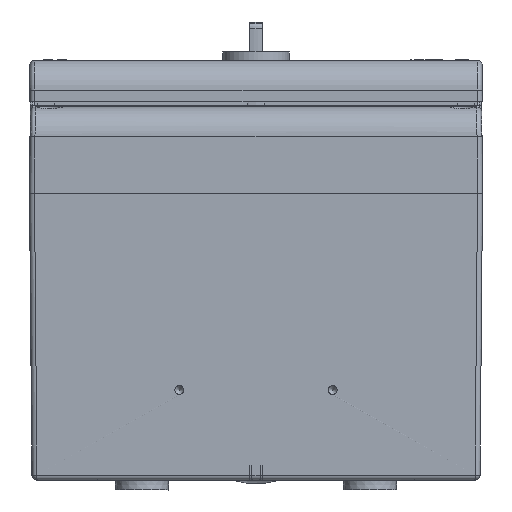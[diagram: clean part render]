
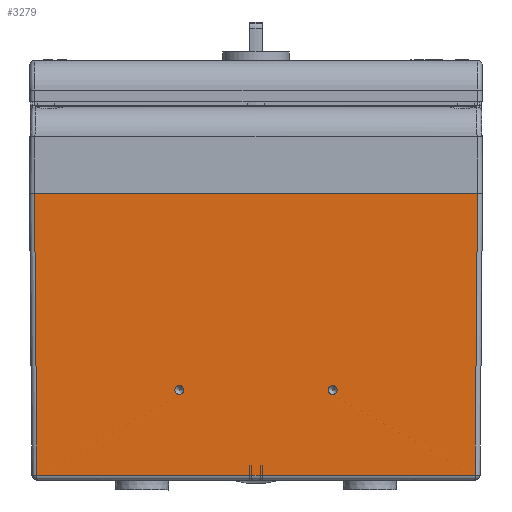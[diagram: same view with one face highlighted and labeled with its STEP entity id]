
A CAD part, front view. The second image highlights one B-rep face of the part: STEP entity #3279.
In plain terms, the highlighted planar face has unit normal (0, -1, -0.009).
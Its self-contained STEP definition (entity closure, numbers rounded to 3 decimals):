
#591=ELLIPSE('',#32421,1.35,1.35);
#592=ELLIPSE('',#32423,1.35,1.35);
#2263=FACE_BOUND('',#7775,.T.);
#2264=FACE_BOUND('',#7776,.T.);
#2265=FACE_BOUND('',#7777,.T.);
#3279=ADVANCED_FACE('',(#2263,#2264,#2265),#4788,.F.);
#4788=PLANE('',#32425);
#7775=EDGE_LOOP('',(#13808,#13809,#13810,#13811));
#7776=EDGE_LOOP('',(#13812));
#7777=EDGE_LOOP('',(#13813));
#13808=ORIENTED_EDGE('',*,*,#23535,.T.);
#13809=ORIENTED_EDGE('',*,*,#23250,.T.);
#13810=ORIENTED_EDGE('',*,*,#23311,.F.);
#13811=ORIENTED_EDGE('',*,*,#23143,.F.);
#13812=ORIENTED_EDGE('',*,*,#24018,.T.);
#13813=ORIENTED_EDGE('',*,*,#24019,.T.);
#19971=VERTEX_POINT('',#46357);
#19972=VERTEX_POINT('',#46358);
#20041=VERTEX_POINT('',#46585);
#20042=VERTEX_POINT('',#46587);
#20490=VERTEX_POINT('',#50149);
#20492=VERTEX_POINT('',#50153);
#23143=EDGE_CURVE('',#19971,#19972,#27182,.T.);
#23250=EDGE_CURVE('',#20041,#20042,#27257,.T.);
#23311=EDGE_CURVE('',#19972,#20042,#27310,.T.);
#23535=EDGE_CURVE('',#19971,#20041,#27444,.T.);
#24018=EDGE_CURVE('',#20490,#20490,#591,.T.);
#24019=EDGE_CURVE('',#20492,#20492,#592,.T.);
#27182=LINE('',#46356,#29500);
#27257=LINE('',#46588,#29575);
#27310=LINE('',#46713,#29628);
#27444=LINE('',#48504,#29762);
#29500=VECTOR('',#36117,1.);
#29575=VECTOR('',#36330,1.);
#29628=VECTOR('',#36455,1.);
#29762=VECTOR('',#36862,1.);
#32421=AXIS2_PLACEMENT_3D('',#50148,#37999,#38000);
#32423=AXIS2_PLACEMENT_3D('',#50152,#38003,#38004);
#32425=AXIS2_PLACEMENT_3D('',#50155,#38007,#38008);
#36117=DIRECTION('',(-0.009,0.009,-1.));
#36330=DIRECTION('',(0.009,0.009,-1.));
#36455=DIRECTION('',(-1.,0.,0.));
#36862=DIRECTION('',(-1.,0.,0.));
#37999=DIRECTION('',(0.,1.,0.009));
#38000=DIRECTION('',(0.,-0.009,1.));
#38003=DIRECTION('',(0.,1.,0.009));
#38004=DIRECTION('',(0.,-0.009,1.));
#38007=DIRECTION('',(0.,1.,0.009));
#38008=DIRECTION('',(-1.,0.,0.));
#46356=CARTESIAN_POINT('',(66.5,0.,0.));
#46357=CARTESIAN_POINT('',(66.5,0.,0.));
#46358=CARTESIAN_POINT('',(65.763,0.738,-84.513));
#46585=CARTESIAN_POINT('',(-66.5,0.,0.));
#46587=CARTESIAN_POINT('',(-65.763,0.738,-84.513));
#46588=CARTESIAN_POINT('',(-66.5,0.,0.));
#46713=CARTESIAN_POINT('',(65.763,0.738,-84.513));
#48504=CARTESIAN_POINT('',(-66.559,0.,0.));
#50148=CARTESIAN_POINT('',(23.,0.515,-58.988));
#50149=CARTESIAN_POINT('',(23.,0.503,-57.638));
#50152=CARTESIAN_POINT('',(-23.,0.515,-58.988));
#50153=CARTESIAN_POINT('',(-23.,0.503,-57.638));
#50155=CARTESIAN_POINT('',(-66.559,-0.001,0.059));
